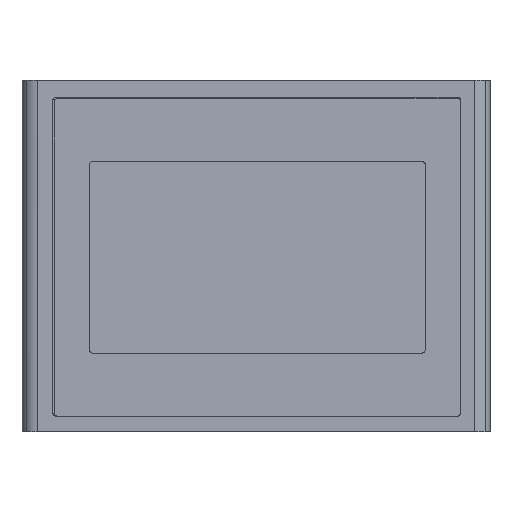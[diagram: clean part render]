
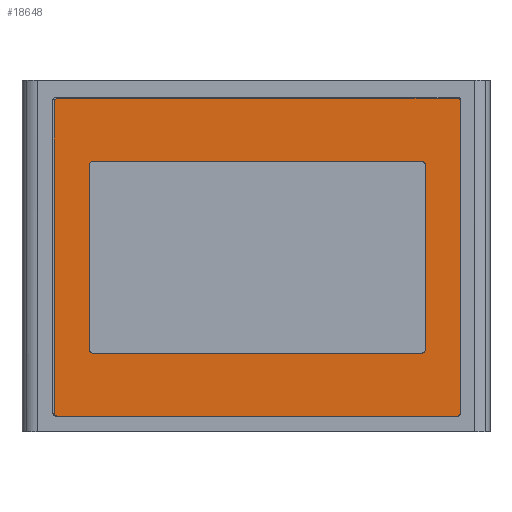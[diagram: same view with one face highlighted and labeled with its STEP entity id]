
A CAD part, top view. The second image highlights one B-rep face of the part: STEP entity #18648.
In plain terms, the highlighted planar face has unit normal (0, 0, 1).
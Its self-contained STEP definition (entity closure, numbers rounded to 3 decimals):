
#18140=DIRECTION('',(0.,-1.,0.));
#18141=VECTOR('',#18140,54.017);
#18142=CARTESIAN_POINT('',(-49.15,29.458,0.32));
#18143=LINE('',#18142,#18141);
#18148=DIRECTION('',(1.,0.,0.));
#18149=VECTOR('',#18148,96.217);
#18150=CARTESIAN_POINT('',(-48.108,-25.6,0.32));
#18151=LINE('',#18150,#18149);
#18170=DIRECTION('',(0.,1.,0.));
#18171=VECTOR('',#18170,54.017);
#18172=CARTESIAN_POINT('',(49.15,-24.558,0.32));
#18173=LINE('',#18172,#18171);
#18192=DIRECTION('',(-1.,0.,0.));
#18193=VECTOR('',#18192,96.217);
#18194=CARTESIAN_POINT('',(48.108,30.5,0.32));
#18195=LINE('',#18194,#18193);
#18210=CARTESIAN_POINT('',(59.45,47.95,0.32));
#18211=CARTESIAN_POINT('',(59.45,48.205,0.32));
#18212=CARTESIAN_POINT('',(59.235,48.735,0.32));
#18213=CARTESIAN_POINT('',(58.705,48.95,0.32));
#18214=CARTESIAN_POINT('',(58.45,48.95,0.32));
#18216=CARTESIAN_POINT('',(58.45,-44.05,0.32));
#18217=CARTESIAN_POINT('',(58.705,-44.05,0.32));
#18218=CARTESIAN_POINT('',(59.235,-43.835,0.32));
#18219=CARTESIAN_POINT('',(59.45,-43.305,0.32));
#18220=CARTESIAN_POINT('',(59.45,-43.05,0.32));
#18222=CARTESIAN_POINT('',(-59.45,-43.05,0.32));
#18223=CARTESIAN_POINT('',(-59.45,-43.305,0.32));
#18224=CARTESIAN_POINT('',(-59.235,-43.835,0.32));
#18225=CARTESIAN_POINT('',(-58.705,-44.05,0.32));
#18226=CARTESIAN_POINT('',(-58.45,-44.05,0.32));
#18228=CARTESIAN_POINT('',(-58.45,48.95,0.32));
#18229=CARTESIAN_POINT('',(-58.705,48.95,0.32));
#18230=CARTESIAN_POINT('',(-59.235,48.735,0.32));
#18231=CARTESIAN_POINT('',(-59.45,48.205,0.32));
#18232=CARTESIAN_POINT('',(-59.45,47.95,0.32));
#18234=CARTESIAN_POINT('',(49.15,-24.558,0.32));
#18235=CARTESIAN_POINT('',(49.15,-24.824,0.32));
#18236=CARTESIAN_POINT('',(48.926,-25.376,0.32));
#18237=CARTESIAN_POINT('',(48.374,-25.6,0.32));
#18238=CARTESIAN_POINT('',(48.108,-25.6,0.32));
#18240=CARTESIAN_POINT('',(48.108,30.5,0.32));
#18241=CARTESIAN_POINT('',(48.374,30.5,0.32));
#18242=CARTESIAN_POINT('',(48.926,30.276,0.32));
#18243=CARTESIAN_POINT('',(49.15,29.724,0.32));
#18244=CARTESIAN_POINT('',(49.15,29.458,0.32));
#18246=CARTESIAN_POINT('',(-49.15,29.458,0.32));
#18247=CARTESIAN_POINT('',(-49.15,29.724,0.32));
#18248=CARTESIAN_POINT('',(-48.926,30.276,0.32));
#18249=CARTESIAN_POINT('',(-48.374,30.5,0.32));
#18250=CARTESIAN_POINT('',(-48.108,30.5,0.32));
#18252=CARTESIAN_POINT('',(-48.108,-25.6,0.32));
#18253=CARTESIAN_POINT('',(-48.374,-25.6,0.32));
#18254=CARTESIAN_POINT('',(-48.926,-25.376,0.32));
#18255=CARTESIAN_POINT('',(-49.15,-24.824,0.32));
#18256=CARTESIAN_POINT('',(-49.15,-24.558,0.32));
#18266=DIRECTION('',(1.,0.,0.));
#18267=VECTOR('',#18266,116.9);
#18268=CARTESIAN_POINT('',(-58.45,48.95,0.32));
#18269=LINE('',#18268,#18267);
#18278=DIRECTION('',(0.,1.,0.));
#18279=VECTOR('',#18278,91.);
#18280=CARTESIAN_POINT('',(-59.45,-43.05,0.32));
#18281=LINE('',#18280,#18279);
#18290=DIRECTION('',(-1.,0.,0.));
#18291=VECTOR('',#18290,116.9);
#18292=CARTESIAN_POINT('',(58.45,-44.05,0.32));
#18293=LINE('',#18292,#18291);
#18302=DIRECTION('',(0.,-1.,0.));
#18303=VECTOR('',#18302,91.);
#18304=CARTESIAN_POINT('',(59.45,47.95,0.32));
#18305=LINE('',#18304,#18303);
#18416=VERTEX_POINT('',#18210);
#18417=VERTEX_POINT('',#18214);
#18418=CARTESIAN_POINT('',(59.45,-43.05,0.32));
#18419=VERTEX_POINT('',#18418);
#18420=VERTEX_POINT('',#18216);
#18421=CARTESIAN_POINT('',(-58.45,-44.05,0.32));
#18422=VERTEX_POINT('',#18421);
#18423=VERTEX_POINT('',#18222);
#18424=CARTESIAN_POINT('',(-59.45,47.95,0.32));
#18425=VERTEX_POINT('',#18424);
#18426=VERTEX_POINT('',#18228);
#18427=CARTESIAN_POINT('',(-48.108,-25.6,0.32));
#18428=CARTESIAN_POINT('',(48.108,-25.6,0.32));
#18429=VERTEX_POINT('',#18427);
#18430=VERTEX_POINT('',#18428);
#18431=VERTEX_POINT('',#18234);
#18432=CARTESIAN_POINT('',(49.15,29.458,0.32));
#18433=VERTEX_POINT('',#18432);
#18434=VERTEX_POINT('',#18240);
#18435=CARTESIAN_POINT('',(-48.108,30.5,0.32));
#18436=VERTEX_POINT('',#18435);
#18437=VERTEX_POINT('',#18246);
#18438=CARTESIAN_POINT('',(-49.15,-24.558,0.32));
#18439=VERTEX_POINT('',#18438);
#18614=CARTESIAN_POINT('',(0.,2.45,0.32));
#18615=DIRECTION('',(0.,0.,1.));
#18616=DIRECTION('',(-1.,0.,0.));
#18617=AXIS2_PLACEMENT_3D('',#18614,#18615,#18616);
#18618=PLANE('',#18617);
#18620=ORIENTED_EDGE('',*,*,#18619,.F.);
#18622=ORIENTED_EDGE('',*,*,#18621,.T.);
#18624=ORIENTED_EDGE('',*,*,#18623,.F.);
#18626=ORIENTED_EDGE('',*,*,#18625,.T.);
#18628=ORIENTED_EDGE('',*,*,#18627,.F.);
#18630=ORIENTED_EDGE('',*,*,#18629,.T.);
#18632=ORIENTED_EDGE('',*,*,#18631,.F.);
#18634=ORIENTED_EDGE('',*,*,#18633,.T.);
#18635=EDGE_LOOP('',(#18620,#18622,#18624,#18626,#18628,#18630,#18632,#18634));
#18636=FACE_OUTER_BOUND('',#18635,.F.);
#18637=ORIENTED_EDGE('',*,*,#18520,.T.);
#18638=ORIENTED_EDGE('',*,*,#18541,.F.);
#18639=ORIENTED_EDGE('',*,*,#18555,.T.);
#18640=ORIENTED_EDGE('',*,*,#18575,.F.);
#18641=ORIENTED_EDGE('',*,*,#18589,.T.);
#18642=ORIENTED_EDGE('',*,*,#18608,.F.);
#18643=ORIENTED_EDGE('',*,*,#18482,.T.);
#18645=ORIENTED_EDGE('',*,*,#18644,.F.);
#18646=EDGE_LOOP('',(#18637,#18638,#18639,#18640,#18641,#18642,#18643,#18645));
#18647=FACE_BOUND('',#18646,.F.);
#18648=ADVANCED_FACE('',(#18636,#18647),#18618,.T.);
#18215=B_SPLINE_CURVE_WITH_KNOTS('',3,(#18210,#18211,#18212,#18213,#18214),
.UNSPECIFIED.,.F.,.F.,(4,1,4),(0.,0.5,1.),.UNSPECIFIED.);
#18221=B_SPLINE_CURVE_WITH_KNOTS('',3,(#18216,#18217,#18218,#18219,#18220),
.UNSPECIFIED.,.F.,.F.,(4,1,4),(0.,0.5,1.),.UNSPECIFIED.);
#18227=B_SPLINE_CURVE_WITH_KNOTS('',3,(#18222,#18223,#18224,#18225,#18226),
.UNSPECIFIED.,.F.,.F.,(4,1,4),(0.,0.5,1.),.UNSPECIFIED.);
#18233=B_SPLINE_CURVE_WITH_KNOTS('',3,(#18228,#18229,#18230,#18231,#18232),
.UNSPECIFIED.,.F.,.F.,(4,1,4),(0.,0.5,1.),.UNSPECIFIED.);
#18239=B_SPLINE_CURVE_WITH_KNOTS('',3,(#18234,#18235,#18236,#18237,#18238),
.UNSPECIFIED.,.F.,.F.,(4,1,4),(0.,0.5,1.),.UNSPECIFIED.);
#18245=B_SPLINE_CURVE_WITH_KNOTS('',3,(#18240,#18241,#18242,#18243,#18244),
.UNSPECIFIED.,.F.,.F.,(4,1,4),(0.,0.5,1.),.UNSPECIFIED.);
#18251=B_SPLINE_CURVE_WITH_KNOTS('',3,(#18246,#18247,#18248,#18249,#18250),
.UNSPECIFIED.,.F.,.F.,(4,1,4),(0.,0.5,1.),.UNSPECIFIED.);
#18257=B_SPLINE_CURVE_WITH_KNOTS('',3,(#18252,#18253,#18254,#18255,#18256),
.UNSPECIFIED.,.F.,.F.,(4,1,4),(0.,0.5,1.),.UNSPECIFIED.);
#18482=EDGE_CURVE('',#18437,#18439,#18143,.T.);
#18520=EDGE_CURVE('',#18429,#18430,#18151,.T.);
#18541=EDGE_CURVE('',#18431,#18430,#18239,.T.);
#18555=EDGE_CURVE('',#18431,#18433,#18173,.T.);
#18575=EDGE_CURVE('',#18434,#18433,#18245,.T.);
#18589=EDGE_CURVE('',#18434,#18436,#18195,.T.);
#18608=EDGE_CURVE('',#18437,#18436,#18251,.T.);
#18619=EDGE_CURVE('',#18416,#18417,#18215,.T.);
#18621=EDGE_CURVE('',#18416,#18419,#18305,.T.);
#18623=EDGE_CURVE('',#18420,#18419,#18221,.T.);
#18625=EDGE_CURVE('',#18420,#18422,#18293,.T.);
#18627=EDGE_CURVE('',#18423,#18422,#18227,.T.);
#18629=EDGE_CURVE('',#18423,#18425,#18281,.T.);
#18631=EDGE_CURVE('',#18426,#18425,#18233,.T.);
#18633=EDGE_CURVE('',#18426,#18417,#18269,.T.);
#18644=EDGE_CURVE('',#18429,#18439,#18257,.T.);
